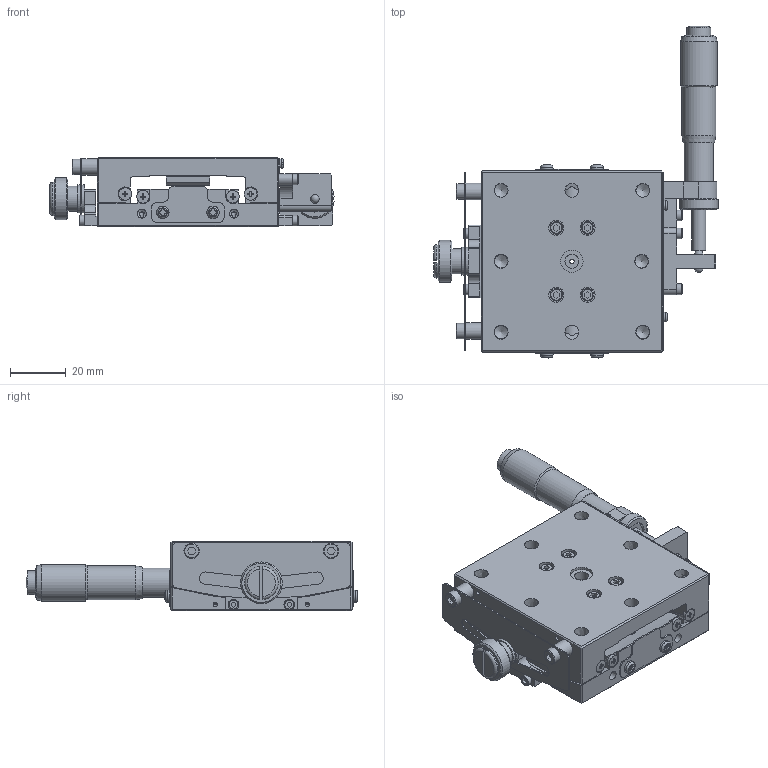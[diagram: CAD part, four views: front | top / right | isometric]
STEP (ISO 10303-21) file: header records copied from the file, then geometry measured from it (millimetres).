
FILE_DESCRIPTION((''),'2;1');
FILE_NAME('Y:\3DDATA\2_OpticalHard\02_海外製品\1_Stags\GOHT\□65ﾏｲｸﾛ式\GOHT-65A100BSUU\GOHT-65A100BSUU.stp','2014-04-09T17:53:49',('usernoto011'),(''),'Autodesk Inventor 2008','Autodesk Inventor 2008','');
FILE_SCHEMA(('AUTOMOTIVE_DESIGN { 1 0 10303 214 1 1 1 1 }'));
Length unit declared in the file: millimetre
Products named in the file (3): GOHT65A100BSUU-M02-08001-S11; GOHT65A100BSUU-M02-08001-S10; GOHT65A100BSUU-M02-08001-S09
Assembly tree (2 placements, depth 2):
  GOHT65A100BSUU-M02-08001-S11
    GOHT65A100BSUU-M02-08001-S10
    GOHT65A100BSUU-M02-08001-S09
Bounding box: 101.93 x 119 x 25 mm (x, y, z)
Volume: 87476.4 mm3; surface area: 46662.5 mm2
Topology: 4 solids, 46 shells, 1069 faces, 2684 edges, 1754 vertices
Faces by surface type: plane 584, bspline 208, cylinder 179, cone 67, sphere 19, torus 12
Full cylindrical faces by diameter (mm): 1.5 x8, 1.6 x1, 2 x8, 2.5 x8, 3 x3, 3.1 x2, 3.8 x6, 4 x2, 4.5 x12, 4.6 x1, 5 x2, 5.2 x1, 5.5 x2, 6 x3, 7 x4, 7.3 x2, 7.5 x1, 8 x3, 8.5 x2, 9 x1, 9.3 x1, 9.9 x1, 10 x2, 10.5 x1, 12 x4, 12.1 x1, 13.1 x1, 15 x1
Entity records: 34224 total; most frequent: CARTESIAN_POINT 11395, DIRECTION 4541, ORIENTED_EDGE 4310, EDGE_CURVE 2155, AXIS2_PLACEMENT_3D 1691, EDGE_LOOP 1572, VERTEX_POINT 1559, VECTOR 1159
